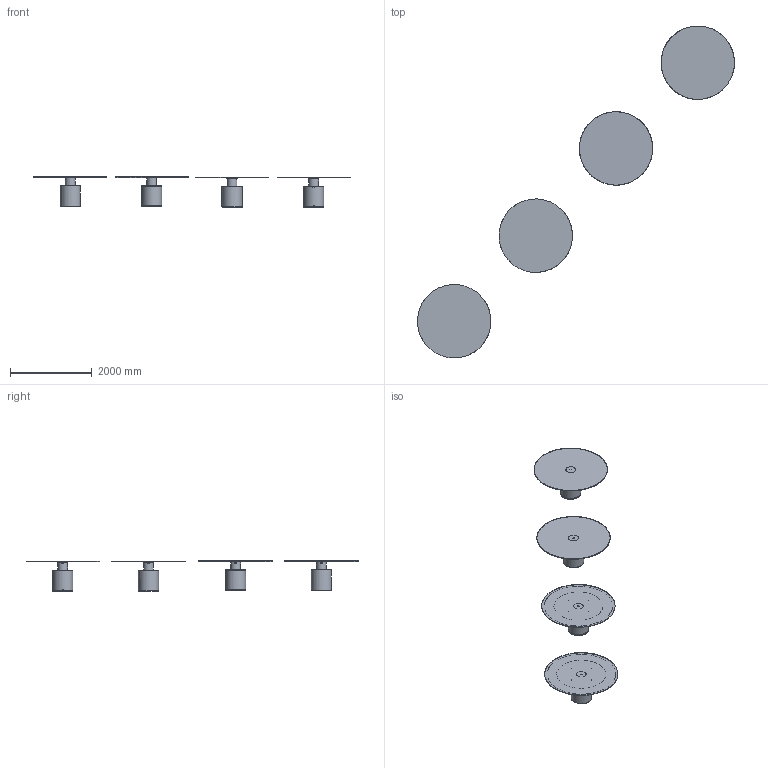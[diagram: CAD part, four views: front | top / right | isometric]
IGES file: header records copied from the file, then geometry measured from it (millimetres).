
Global section: file name: \\fs\Gruppi\Tecnico\UFFICIO TECNICO\PROGETTI in SVILUPPO\2021\CRESO\3D\D180\CRESO - D180.igs; native system: Rhinoceros ( May  7 2019 ); preprocessor: Trout Lake IGES 012 May  7 2019; date: 210715.135558; units: millimetre
Bounding box: 7770.85 x 8137.99 x 746.43 mm (x, y, z)
Surface area: 37309764.4 mm2 (no closed solid volume)
Topology: 0 solids, 0 shells, 554 faces, 2600 edges, 2436 vertices
Faces by surface type: bspline 554
